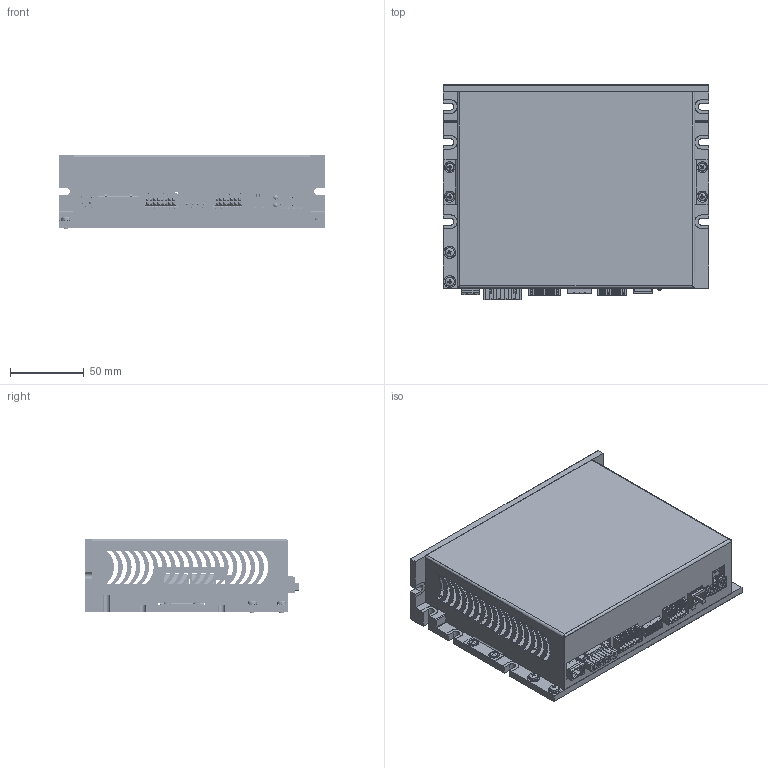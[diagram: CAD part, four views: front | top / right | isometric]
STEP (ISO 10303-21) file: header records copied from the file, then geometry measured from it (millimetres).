
FILE_DESCRIPTION(/* description */ ('Unknown'),/* implementation_level */ '2;1');
FILE_NAME(/* name */ 'AW5A9750L221-20',/* time_stamp */ '2021-05-10T15:04:01+02:00',/* author */ ('Unknown'),/* organization */ ('Unknown'),/* preprocessor_version */ 'ST-DEVELOPER v16.7',/* originating_system */ 'Solid Edge',/* authorisation */ 'Unknown');
FILE_SCHEMA (('AUTOMOTIVE_DESIGN {1 0 10303 214 3 1 1}'));
Products named in the file (46): SW5A9030; estruso_sw5a9030_isd04_inserti; ESTRUSO_SW5A9030_ISD04; inserto_m2_5x12mm; ad_01121_sw5a9030_isd04; dentellata_M3; tcc_M2e5x05; ISD04-00_oa_0; Board; Open CASCADE STEP translator 6.8 1.1.1; CN7; 1782378; mc_1.5-4-g-3.81-p14-thr; CN3; dinkle_0156-1514; CN2A; 1927878_3D; IC_2_5-5-G-5_08-225340_ASM; IC_2_5-5-G-5_08-217880; CN4; dinkle_0156-1516l; GL400; 5151061f; J400; IMD03DIP-00; DIP100; a6e-4104; SW401; RTE0400V04; SW400; JMP500; 79202-x02lf; CN6; 955012641; Open CASCADE STEP translator 6.8 1.503.1.1; Open CASCADE STEP translator 6.8 1.503.1.2; CN5B; c-5555153-1-c-3d; CN5A; CN1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
Assembly tree (63 placements, depth 6):
  SW5A9030
    estruso_sw5a9030_isd04_inserti
      ESTRUSO_SW5A9030_ISD04
      inserto_m2_5x12mm  x3
    ad_01121_sw5a9030_isd04
    dentellata_M3  x2
    tcc_M2e5x05  x12
    ISD04-00_oa_0
      Board
        Open CASCADE STEP translator 6.8 1.1.1
      CN7
        1782378
          mc_1.5-4-g-3.81-p14-thr
      CN3
        dinkle_0156-1514
      CN2A
        1927878_3D
          IC_2_5-5-G-5_08-225340_ASM
            IC_2_5-5-G-5_08-217880
      CN4
        dinkle_0156-1516l
      GL400
        5151061f
      J400
        IMD03DIP-00
          Board
          DIP100
            a6e-4104
      SW401
        RTE0400V04
      SW400
        RTE0400V04
      JMP500
        79202-x02lf  x2
      CN6
        955012641
          Open CASCADE STEP translator 6.8 1.503.1.1
          Open CASCADE STEP translator 6.8 1.503.1.2
      CN5B
        c-5555153-1-c-3d
      CN5A
        c-5555153-1-c-3d
      CN1
        CA02MHLT5.08B_1757242
          MSTBA_2_5-2-G-5_08-72070_ASM
            MSTBA_2_5-2-G-5_08-69580
    tcc_M3x06  x2
    Scatola SW5A9030 con ISD04
Bounding box: 180.7 x 146.11 x 50.4 mm (x, y, z)
Volume: 262651.3 mm3; surface area: 217456.8 mm2
Topology: 37 solids, 66 shells, 7566 faces, 20449 edges, 13228 vertices
Faces by surface type: plane 5446, cylinder 1599, bspline 230, cone 127, sphere 84, torus 80
Full cylindrical faces by diameter (mm): 0.406 x8, 0.434 x1, 0.457 x2, 0.762 x44, 0.8 x12, 0.9 x20, 1 x25, 1.016 x34, 1.2 x8, 1.25 x4, 1.27 x2, 1.397 x1, 1.4 x51, 1.5 x4, 1.524 x6, 1.53 x1, 1.55 x1, 1.6 x8, 1.778 x4, 2.013 x9, 2.032 x6, 2.05 x3, 2.459 x2, 2.5 x17, 2.7 x8, 2.75 x2, 2.8 x5, 3 x6, 3.048 x2, 3.2 x4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
Entity records: 225663 total; most frequent: CARTESIAN_POINT 40716, ORIENTED_EDGE 32938, DIRECTION 31083, EDGE_CURVE 16505, LINE 12703, VECTOR 12703, VERTEX_POINT 10915, AXIS2_PLACEMENT_3D 9190
